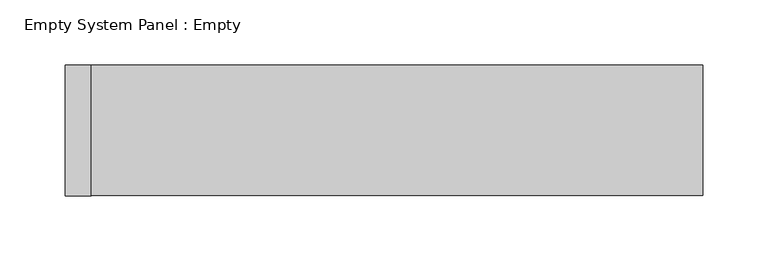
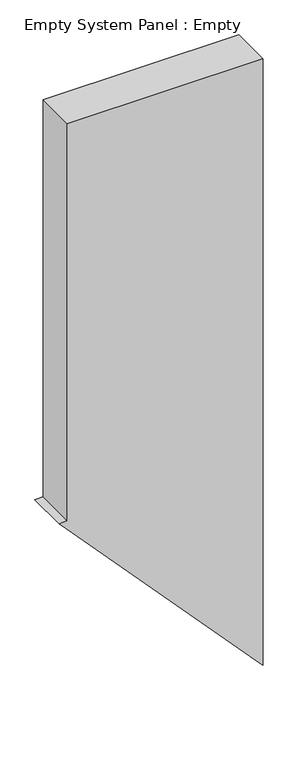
"""IFC4 building model written with IfcOpenShell, lengths in millimetres: plate geometry, Empty System Panel : Empty."""

from ifc_helpers import new_model, si_unit, frame, origin, place, context, project, spatial, polyline, outline, extrude, source, transform, mapped, element, save


def empty_system_panel_empty_13323e84(model_context):
    return source(origin(), model_context, "Body", "SweptSolid", [
        extrude(outline(polyline([(529.729704, -244.1589868), (0.0, 244.1589868), (1534.1414932, 244.1589868), (1534.1414932, -224.1589868), (529.729704, -224.1589868), (529.729704, -244.1589868)])), frame((0.0, -50.0, 0.0), z_axis=(0.0, 1.0, 0.0), x_axis=(0.0, 0.0, 1.0)), (0.0, 0.0, 1.0), 100.0),
    ])


if __name__ == "__main__":
    model = new_model("IFC4")
    model_context = context("Model", 3, world=origin())
    ifc_project = project(units=[si_unit("LENGTHUNIT", "METRE", prefix="MILLI")], contexts=[model_context])
    site = spatial("IfcSite", under=ifc_project)
    building = spatial("IfcBuilding", under=site)
    placement = place(None, origin())
    empty_system_panel_empty_shape = empty_system_panel_empty_13323e84(model_context)
    element("IfcPlate", 1, ObjectType="Empty System Panel : Empty", at=placement, inside=building, context=model_context, shape_type="MappedRepresentation", body=[
        mapped(empty_system_panel_empty_shape, transform((0.0, 0.0, 0.0), x_axis=(1.0, 0.0, 0.0), y_axis=(0.0, 1.0, 0.0), z_axis=(0.0, 0.0, 1.0))),
    ])
    save(model, "model.ifc")
